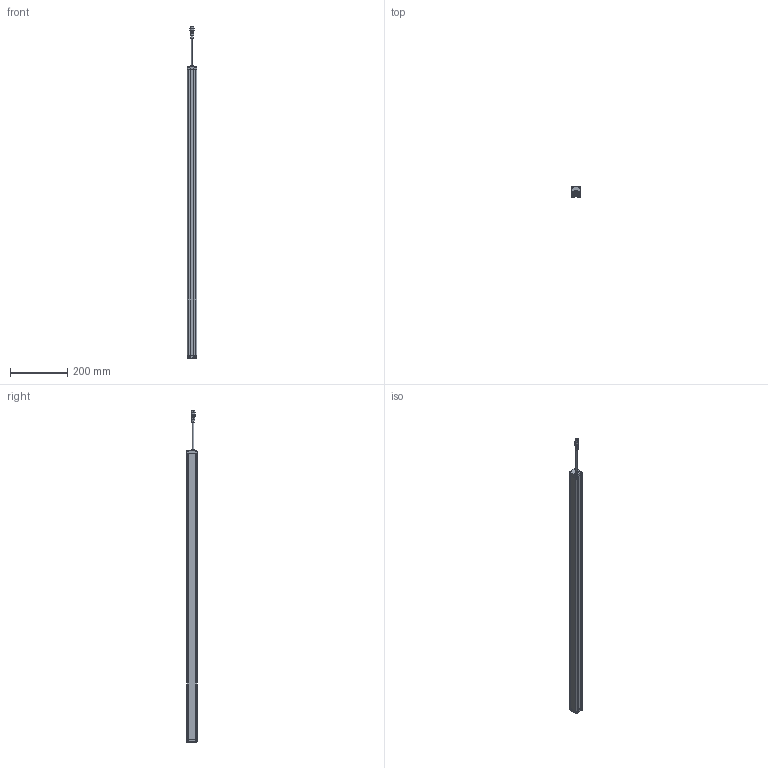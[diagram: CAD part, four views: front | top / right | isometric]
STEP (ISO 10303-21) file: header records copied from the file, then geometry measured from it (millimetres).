
FILE_DESCRIPTION((''),'2;1');
FILE_NAME('PRT0025','2026-03-31T13:11:58',('Administrator'),(''),'CREO PARAMETRIC BY PTC INC, 2016510','CREO PARAMETRIC BY PTC INC, 2016510','');
FILE_SCHEMA(('AUTOMOTIVE_DESIGN { 1 0 10303 214 1 1 1 1 }'));
Length unit declared in the file: millimetre
Products named in the file (1): PRT0025
Bounding box: 33 x 38 x 1161.9 mm (x, y, z)
Surface area: 225986.6 mm2 (no closed solid volume)
Topology: 0 solids, 12 shells, 815 faces, 2164 edges, 1368 vertices
Faces by surface type: plane 384, cylinder 235, extrusion 88, sphere 40, torus 36, cone 28, bspline 4
Entity records: 32121 total; most frequent: CARTESIAN_POINT 6084, ORIENTED_EDGE 4224, DIRECTION 3990, EDGE_CURVE 2112, VERTEX_POINT 1368, AXIS2_PLACEMENT_3D 1357, VECTOR 1276, LINE 1188
